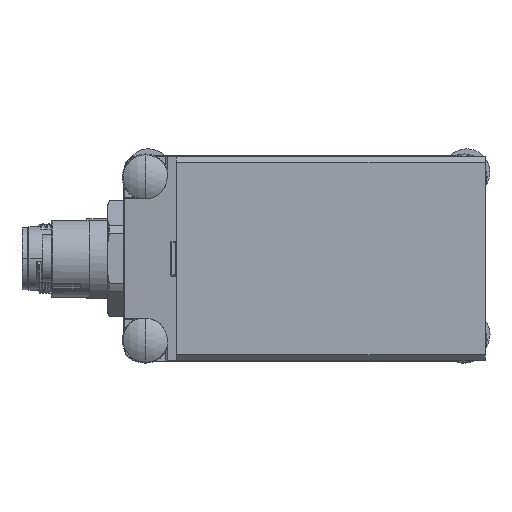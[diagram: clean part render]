
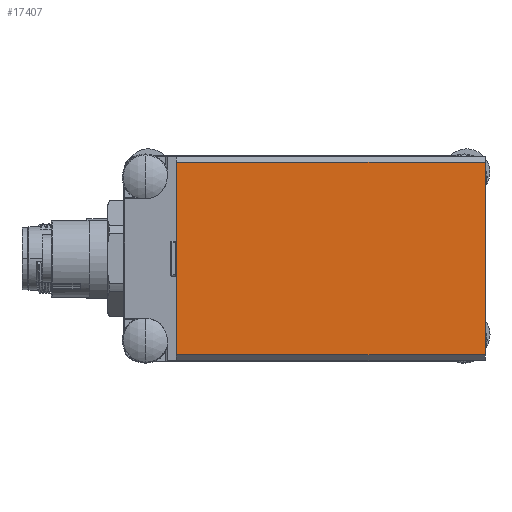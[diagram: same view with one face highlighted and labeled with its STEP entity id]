
A CAD part, front view. The second image highlights one B-rep face of the part: STEP entity #17407.
In plain terms, the highlighted planar face has unit normal (0, -1, 0).
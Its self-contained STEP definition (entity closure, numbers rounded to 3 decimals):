
#4959 = DIRECTION ( 'NONE',  ( -1., 0., 0. ) ) ;
#4965 = CARTESIAN_POINT ( 'NONE',  ( 0., -17.5, 17.5 ) ) ;
#4967 = CARTESIAN_POINT ( 'NONE',  ( 0., -17.5, 16.5 ) ) ;
#4972 = DIRECTION ( 'NONE',  ( 0., 0., -1. ) ) ;
#4973 = CARTESIAN_POINT ( 'NONE',  ( 0., -17.5, -16.5 ) ) ;
#4974 = DIRECTION ( 'NONE',  ( 1., 0., 0. ) ) ;
#4975 = CARTESIAN_POINT ( 'NONE',  ( -53., -17.5, 17.5 ) ) ;
#4976 = DIRECTION ( 'NONE',  ( 0., 0., -1. ) ) ;
#5275 = LINE ( 'NONE', #4967, #5285 ) ;
#5283 = LINE ( 'NONE', #4965, #5287 ) ;
#5285 = VECTOR ( 'NONE', #4959, 1000. ) ;
#5286 = LINE ( 'NONE', #4973, #5289 ) ;
#5287 = VECTOR ( 'NONE', #4972, 1000. ) ;
#5288 = LINE ( 'NONE', #4975, #5291 ) ;
#5289 = VECTOR ( 'NONE', #4974, 1000. ) ;
#5291 = VECTOR ( 'NONE', #4976, 1000. ) ;
#17407 = ADVANCED_FACE ( 'NONE', ( #96737 ), #52289, .F. ) ;
#24789 = VERTEX_POINT ( 'NONE', #37035 ) ;
#24793 = VERTEX_POINT ( 'NONE', #37039 ) ;
#24794 = VERTEX_POINT ( 'NONE', #37040 ) ;
#24795 = VERTEX_POINT ( 'NONE', #37041 ) ;
#29952 = EDGE_LOOP ( 'NONE', ( #30484, #30485, #30486, #30488 ) ) ;
#30484 = ORIENTED_EDGE ( 'NONE', *, *, #88801, .T. ) ;
#30485 = ORIENTED_EDGE ( 'NONE', *, *, #88800, .T. ) ;
#30486 = ORIENTED_EDGE ( 'NONE', *, *, #88799, .F. ) ;
#30488 = ORIENTED_EDGE ( 'NONE', *, *, #88798, .T. ) ;
#37035 = CARTESIAN_POINT ( 'NONE',  ( -53., -17.5, 16.5 ) ) ;
#37039 = CARTESIAN_POINT ( 'NONE',  ( -53., -17.5, -16.5 ) ) ;
#37040 = CARTESIAN_POINT ( 'NONE',  ( 0., -17.5, 16.5 ) ) ;
#37041 = CARTESIAN_POINT ( 'NONE',  ( 0., -17.5, -16.5 ) ) ;
#47087 = AXIS2_PLACEMENT_3D ( 'NONE', #52293, #52306, #52308 ) ;
#52289 = PLANE ( 'NONE',  #47087 ) ;
#52293 = CARTESIAN_POINT ( 'NONE',  ( 0., -17.5, 17.5 ) ) ;
#52306 = DIRECTION ( 'NONE',  ( 0., 1., 0. ) ) ;
#52308 = DIRECTION ( 'NONE',  ( 0., 0., 1. ) ) ;
#88798 = EDGE_CURVE ( 'NONE', #24794, #24789, #5275, .T. ) ;
#88799 = EDGE_CURVE ( 'NONE', #24794, #24795, #5283, .T. ) ;
#88800 = EDGE_CURVE ( 'NONE', #24793, #24795, #5286, .T. ) ;
#88801 = EDGE_CURVE ( 'NONE', #24789, #24793, #5288, .T. ) ;
#96737 = FACE_OUTER_BOUND ( 'NONE', #29952, .T. ) ;
